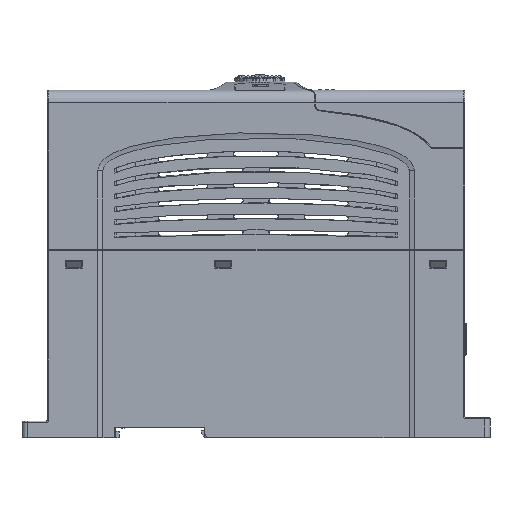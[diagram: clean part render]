
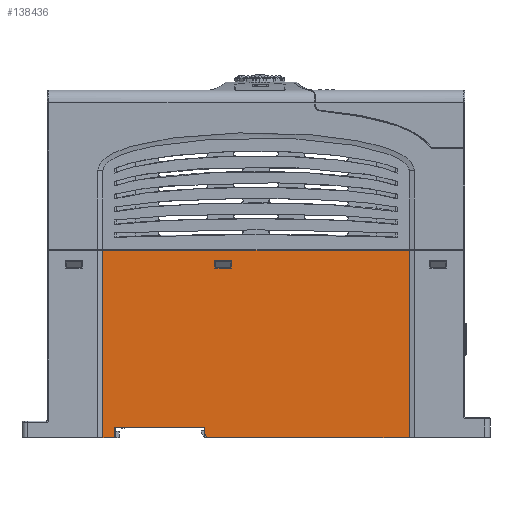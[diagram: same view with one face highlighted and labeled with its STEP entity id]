
A CAD part, left-side view. The second image highlights one B-rep face of the part: STEP entity #138436.
In plain terms, the highlighted planar face has unit normal (-1, 0, 0).
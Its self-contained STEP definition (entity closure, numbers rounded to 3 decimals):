
#5303 = LINE ( 'NONE', #194058, #41574 ) ;
#6092 = CARTESIAN_POINT ( 'NONE',  ( -39.5, 103., -99.5 ) ) ;
#7237 = LINE ( 'NONE', #12995, #190911 ) ;
#7340 = LINE ( 'NONE', #214937, #132635 ) ;
#7786 = PLANE ( 'NONE',  #137069 ) ;
#10046 = VECTOR ( 'NONE', #86432, 1000. ) ;
#11444 = DIRECTION ( 'NONE',  ( 0., 0.447, 0.894 ) ) ;
#12537 = CARTESIAN_POINT ( 'NONE',  ( -39.5, 98.75, -66.5 ) ) ;
#12995 = CARTESIAN_POINT ( 'NONE',  ( -39.5, 82.5, -136.5 ) ) ;
#13249 = EDGE_CURVE ( 'NONE', #158133, #186688, #7340, .T. ) ;
#13853 = CARTESIAN_POINT ( 'NONE',  ( -39.5, 82.5, -69.5 ) ) ;
#15477 = VECTOR ( 'NONE', #155520, 1000. ) ;
#15861 = VECTOR ( 'NONE', #183944, 1000. ) ;
#28346 = ORIENTED_EDGE ( 'NONE', *, *, #13249, .F. ) ;
#35416 = EDGE_CURVE ( 'NONE', #59727, #158133, #35421, .T. ) ;
#35421 = LINE ( 'NONE', #223111, #227279 ) ;
#36732 = EDGE_CURVE ( 'NONE', #101421, #213707, #82285, .T. ) ;
#38418 = DIRECTION ( 'NONE',  ( 0., 0., 1. ) ) ;
#39147 = CARTESIAN_POINT ( 'NONE',  ( -39.5, 120.7, -132.5 ) ) ;
#41574 = VECTOR ( 'NONE', #208761, 1000. ) ;
#41950 = DIRECTION ( 'NONE',  ( 0., 0., 1. ) ) ;
#42084 = ORIENTED_EDGE ( 'NONE', *, *, #76290, .F. ) ;
#45812 = DIRECTION ( 'NONE',  ( 0., 0., 1. ) ) ;
#50454 = CARTESIAN_POINT ( 'NONE',  ( -39.5, 138.4, -136.5 ) ) ;
#52616 = VECTOR ( 'NONE', #41950, 1000. ) ;
#59727 = VERTEX_POINT ( 'NONE', #109977 ) ;
#59742 = EDGE_CURVE ( 'NONE', #178157, #101421, #86127, .T. ) ;
#61233 = CARTESIAN_POINT ( 'NONE',  ( -39.5, 103., -132.5 ) ) ;
#62935 = VECTOR ( 'NONE', #82444, 1000. ) ;
#66749 = VECTOR ( 'NONE', #38418, 1000. ) ;
#67099 = CARTESIAN_POINT ( 'NONE',  ( -39.5, 22., -62.5 ) ) ;
#69261 = CARTESIAN_POINT ( 'NONE',  ( -39.5, 82.5, -62.5 ) ) ;
#70940 = EDGE_LOOP ( 'NONE', ( #210491, #198474, #169865, #200464, #220669, #101889, #77596, #106908, #42084 ) ) ;
#76290 = EDGE_CURVE ( 'NONE', #172058, #180297, #7237, .T. ) ;
#76939 = CARTESIAN_POINT ( 'NONE',  ( -39.5, 103., -134.5 ) ) ;
#77596 = ORIENTED_EDGE ( 'NONE', *, *, #155180, .F. ) ;
#78565 = ORIENTED_EDGE ( 'NONE', *, *, #35416, .F. ) ;
#80208 = CARTESIAN_POINT ( 'NONE',  ( -39.5, 82.5, -99.5 ) ) ;
#82285 = LINE ( 'NONE', #69261, #15477 ) ;
#82444 = DIRECTION ( 'NONE',  ( 0., 1., 0. ) ) ;
#86127 = LINE ( 'NONE', #126268, #66749 ) ;
#86432 = DIRECTION ( 'NONE',  ( 0., 0., -1. ) ) ;
#91381 = EDGE_CURVE ( 'NONE', #130693, #114752, #220210, .T. ) ;
#99879 = LINE ( 'NONE', #6092, #52616 ) ;
#101421 = VERTEX_POINT ( 'NONE', #218821 ) ;
#101860 = DIRECTION ( 'NONE',  ( 0., -1., 0. ) ) ;
#101889 = ORIENTED_EDGE ( 'NONE', *, *, #91381, .F. ) ;
#105294 = FACE_BOUND ( 'NONE', #154756, .T. ) ;
#106908 = ORIENTED_EDGE ( 'NONE', *, *, #231030, .F. ) ;
#108484 = DIRECTION ( 'NONE',  ( 0., 1., 0. ) ) ;
#109977 = CARTESIAN_POINT ( 'NONE',  ( -39.5, 92.25, -69.5 ) ) ;
#112166 = EDGE_CURVE ( 'NONE', #186688, #136219, #5303, .T. ) ;
#114752 = VERTEX_POINT ( 'NONE', #217859 ) ;
#126268 = CARTESIAN_POINT ( 'NONE',  ( -39.5, 143., -99.5 ) ) ;
#130693 = VERTEX_POINT ( 'NONE', #61233 ) ;
#131192 = LINE ( 'NONE', #224575, #223097 ) ;
#131410 = ORIENTED_EDGE ( 'NONE', *, *, #176070, .F. ) ;
#132635 = VECTOR ( 'NONE', #108484, 1000. ) ;
#136219 = VERTEX_POINT ( 'NONE', #202254 ) ;
#137069 = AXIS2_PLACEMENT_3D ( 'NONE', #80208, #203736, #185847 ) ;
#137611 = CARTESIAN_POINT ( 'NONE',  ( -39.5, 82.5, -136.5 ) ) ;
#138436 = ADVANCED_FACE ( 'NONE', ( #105294, #155194 ), #7786, .F. ) ;
#139425 = VECTOR ( 'NONE', #175835, 1000. ) ;
#145745 = VECTOR ( 'NONE', #101860, 1000. ) ;
#146555 = CARTESIAN_POINT ( 'NONE',  ( -39.5, 102., -136.5 ) ) ;
#154756 = EDGE_LOOP ( 'NONE', ( #189511, #28346, #78565, #131410 ) ) ;
#155180 = EDGE_CURVE ( 'NONE', #155690, #130693, #99879, .T. ) ;
#155194 = FACE_OUTER_BOUND ( 'NONE', #70940, .T. ) ;
#155520 = DIRECTION ( 'NONE',  ( 0., -1., 0. ) ) ;
#155690 = VERTEX_POINT ( 'NONE', #76939 ) ;
#158133 = VERTEX_POINT ( 'NONE', #185508 ) ;
#163833 = VERTEX_POINT ( 'NONE', #50454 ) ;
#167986 = LINE ( 'NONE', #13853, #145745 ) ;
#169865 = ORIENTED_EDGE ( 'NONE', *, *, #59742, .F. ) ;
#172058 = VERTEX_POINT ( 'NONE', #212271 ) ;
#175835 = DIRECTION ( 'NONE',  ( 0., 1., 0. ) ) ;
#176070 = EDGE_CURVE ( 'NONE', #136219, #59727, #167986, .T. ) ;
#178157 = VERTEX_POINT ( 'NONE', #193883 ) ;
#180297 = VERTEX_POINT ( 'NONE', #146555 ) ;
#183944 = DIRECTION ( 'NONE',  ( 0., 0., -1. ) ) ;
#185508 = CARTESIAN_POINT ( 'NONE',  ( -39.5, 92.25, -66.5 ) ) ;
#185847 = DIRECTION ( 'NONE',  ( 0., 0., -1. ) ) ;
#185999 = EDGE_CURVE ( 'NONE', #213707, #172058, #193921, .T. ) ;
#186688 = VERTEX_POINT ( 'NONE', #12537 ) ;
#186745 = EDGE_CURVE ( 'NONE', #114752, #163833, #199232, .T. ) ;
#189506 = DIRECTION ( 'NONE',  ( 0., 1., 0. ) ) ;
#189511 = ORIENTED_EDGE ( 'NONE', *, *, #112166, .F. ) ;
#190911 = VECTOR ( 'NONE', #189506, 1000. ) ;
#191335 = CARTESIAN_POINT ( 'NONE',  ( -39.5, 138.4, -99.5 ) ) ;
#193523 = LINE ( 'NONE', #137611, #62935 ) ;
#193883 = CARTESIAN_POINT ( 'NONE',  ( -39.5, 143., -136.5 ) ) ;
#193921 = LINE ( 'NONE', #202578, #15861 ) ;
#194058 = CARTESIAN_POINT ( 'NONE',  ( -39.5, 98.75, -99.5 ) ) ;
#198474 = ORIENTED_EDGE ( 'NONE', *, *, #36732, .F. ) ;
#199232 = LINE ( 'NONE', #191335, #10046 ) ;
#200464 = ORIENTED_EDGE ( 'NONE', *, *, #221634, .F. ) ;
#202254 = CARTESIAN_POINT ( 'NONE',  ( -39.5, 98.75, -69.5 ) ) ;
#202578 = CARTESIAN_POINT ( 'NONE',  ( -39.5, 22., -99.5 ) ) ;
#203736 = DIRECTION ( 'NONE',  ( 1., 0., 0. ) ) ;
#208761 = DIRECTION ( 'NONE',  ( 0., 0., -1. ) ) ;
#210491 = ORIENTED_EDGE ( 'NONE', *, *, #185999, .F. ) ;
#212271 = CARTESIAN_POINT ( 'NONE',  ( -39.5, 22., -136.5 ) ) ;
#213707 = VERTEX_POINT ( 'NONE', #67099 ) ;
#214937 = CARTESIAN_POINT ( 'NONE',  ( -39.5, 82.5, -66.5 ) ) ;
#217859 = CARTESIAN_POINT ( 'NONE',  ( -39.5, 138.4, -132.5 ) ) ;
#218821 = CARTESIAN_POINT ( 'NONE',  ( -39.5, 143., -62.5 ) ) ;
#220210 = LINE ( 'NONE', #39147, #139425 ) ;
#220669 = ORIENTED_EDGE ( 'NONE', *, *, #186745, .F. ) ;
#221634 = EDGE_CURVE ( 'NONE', #163833, #178157, #193523, .T. ) ;
#223097 = VECTOR ( 'NONE', #11444, 1000. ) ;
#223111 = CARTESIAN_POINT ( 'NONE',  ( -39.5, 92.25, -99.5 ) ) ;
#224575 = CARTESIAN_POINT ( 'NONE',  ( -39.5, 102., -136.5 ) ) ;
#227279 = VECTOR ( 'NONE', #45812, 1000. ) ;
#231030 = EDGE_CURVE ( 'NONE', #180297, #155690, #131192, .T. ) ;
